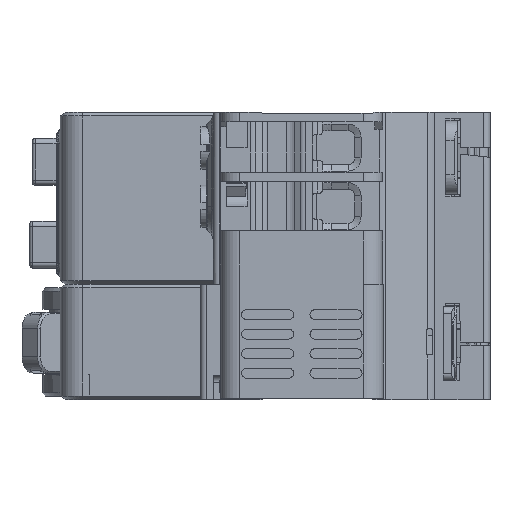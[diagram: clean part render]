
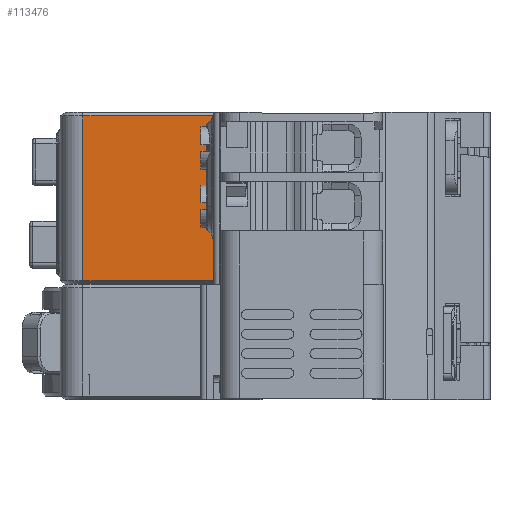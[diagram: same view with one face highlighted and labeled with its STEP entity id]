
A CAD part, left-side view. The second image highlights one B-rep face of the part: STEP entity #113476.
In plain terms, the highlighted planar face has unit normal (-1, 0, 0).
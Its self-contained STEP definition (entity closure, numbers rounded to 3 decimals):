
#28351=DIRECTION('',(0.,-1.,0.));
#28352=VECTOR('',#28351,20.);
#28353=CARTESIAN_POINT('',(0.,20.,-11.45));
#28354=LINE('',#28353,#28352);
#28390=DIRECTION('',(0.,0.,-1.));
#28391=VECTOR('',#28390,25.3);
#28392=CARTESIAN_POINT('',(0.,20.,13.85));
#28393=LINE('',#28392,#28391);
#28468=DIRECTION('',(0.,1.,0.));
#28469=VECTOR('',#28468,20.);
#28470=CARTESIAN_POINT('',(0.,0.,13.85));
#28471=LINE('',#28470,#28469);
#28472=DIRECTION('',(0.,0.,-1.));
#28473=VECTOR('',#28472,25.3);
#28474=CARTESIAN_POINT('',(0.,0.,13.85));
#28475=LINE('',#28474,#28473);
#60546=CARTESIAN_POINT('',(0.,20.,-11.45));
#60547=VERTEX_POINT('',#60546);
#60548=CARTESIAN_POINT('',(0.,0.,-11.45));
#60549=VERTEX_POINT('',#60548);
#63817=CARTESIAN_POINT('',(0.,0.,13.85));
#63818=VERTEX_POINT('',#63817);
#63827=CARTESIAN_POINT('',(0.,20.,13.85));
#63828=VERTEX_POINT('',#63827);
#113464=CARTESIAN_POINT('',(0.,20.,0.));
#113465=DIRECTION('',(-1.,0.,0.));
#113466=DIRECTION('',(0.,-1.,0.));
#113467=AXIS2_PLACEMENT_3D('',#113464,#113465,#113466);
#113468=PLANE('',#113467);
#113469=ORIENTED_EDGE('',*,*,#113327,.F.);
#113470=ORIENTED_EDGE('',*,*,#113455,.F.);
#113472=ORIENTED_EDGE('',*,*,#113471,.T.);
#113473=ORIENTED_EDGE('',*,*,#113283,.F.);
#113474=EDGE_LOOP('',(#113469,#113470,#113472,#113473));
#113475=FACE_OUTER_BOUND('',#113474,.F.);
#113476=ADVANCED_FACE('',(#113475),#113468,.T.);
#113283=EDGE_CURVE('',#60547,#60549,#28354,.T.);
#113327=EDGE_CURVE('',#63828,#60547,#28393,.T.);
#113455=EDGE_CURVE('',#63818,#63828,#28471,.T.);
#113471=EDGE_CURVE('',#63818,#60549,#28475,.T.);
